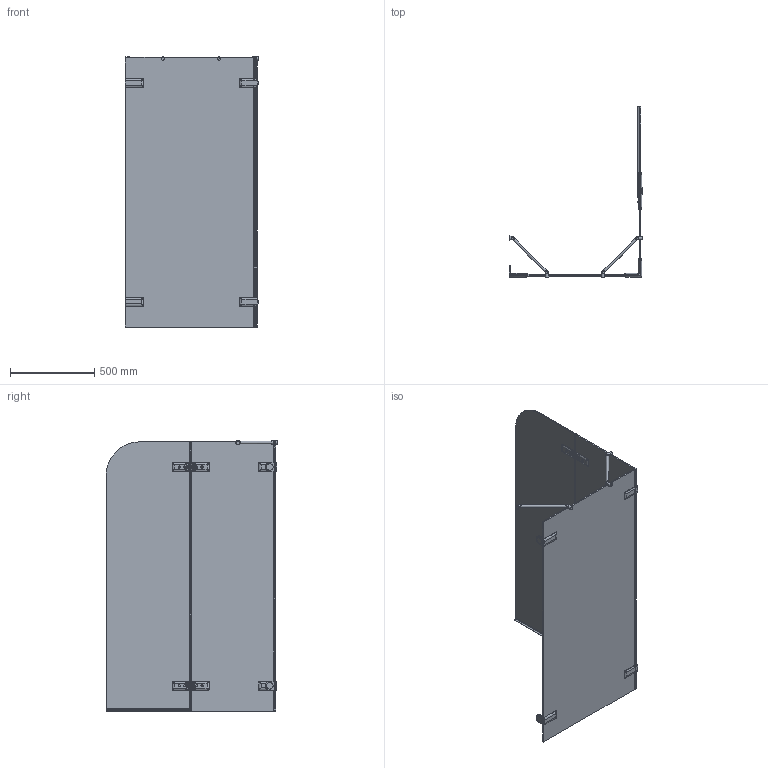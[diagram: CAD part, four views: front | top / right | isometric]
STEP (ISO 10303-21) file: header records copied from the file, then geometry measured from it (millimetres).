
FILE_DESCRIPTION(/* description */ (''),/* implementation_level */ '2;1');
FILE_NAME(/* name */ 'E:\Работа\Сергей\Душевые кабинки\! Работа\!\TREND PEARL GV-863C\TREND PEARL GV-863C левая модель\TREND PEARL GV-863C ЛЕВАЯ-3D.stp',/* time_stamp */ '2017-10-21T08:15:40+03:00',/* author */ ('PC'),/* organization */ (''),/* preprocessor_version */ 'ST-DEVELOPER v15.2',/* originating_system */ 'Autodesk Inventor 2014',/* authorisation */ '');
FILE_SCHEMA (('AUTOMOTIVE_DESIGN { 1 0 10303 214 3 1 1 }'));
Products named in the file (1): TREND PEARL GV-863C ЛЕВАЯ-3D
Bounding box: 794.5 x 1020.5 x 1611.89 mm (x, y, z)
Volume: 21931503.1 mm3; surface area: 5937373.1 mm2
Topology: 8 solids, 8 shells, 1120 faces, 3040 edges, 1917 vertices
Faces by surface type: plane 625, cylinder 284, bspline 142, torus 31, cone 20, sphere 18
Full cylindrical faces by diameter (mm): 6 x2, 9 x8, 13 x2, 15 x2, 20 x4, 26 x1, 40 x2
Entity records: 52800 total; most frequent: CARTESIAN_POINT 24414, ORIENTED_EDGE 5834, DIRECTION 5437, EDGE_CURVE 2917, VERTEX_POINT 1899, AXIS2_PLACEMENT_3D 1873, LINE 1691, VECTOR 1691
